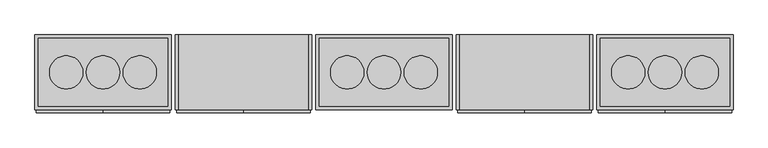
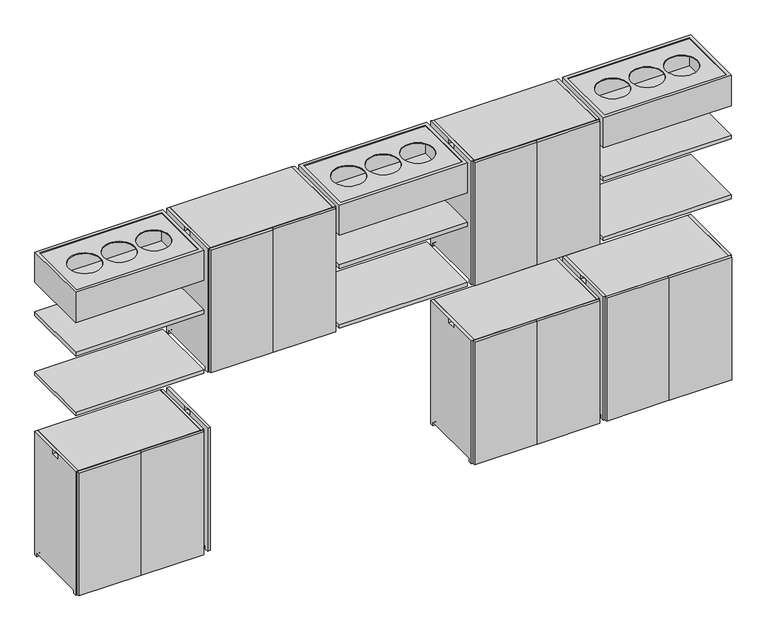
"""IFC4 building model written with IfcOpenShell, lengths in millimetres: furniture geometry, MAKR_TEMPLATE_800mmL1 : MAKR_TEMPLATE_800mmL 2."""

from ifc_helpers import new_model, si_unit, point, frame, frame_2d, origin, place, context, project, spatial, polyline, circle_curve, trimmed, segment, composite_curve, outline, extrude, source, transform, mapped, element, save
from ifc_brep_helpers import plane_surface, revolved_surface, advanced_brep


def furniture_e981aaca(model_context):
    return source(origin(), model_context, "Body", "SolidModel", [
        extrude(outline(polyline([(1250.0, 218.5217186), (2050.0, 218.5217186), (2050.0, -221.4782814), (1250.0, -221.4782814), (1250.0, 218.5217186)])), frame((0.0, 0.0, 1274.0), z_axis=(0.0, 0.0, 1.0), x_axis=(1.0, 0.0, 0.0)), (0.0, 0.0, 1.0), 25.0),
        extrude(outline(polyline([(-1250.0, 218.5217186), (-1250.0, -221.4782814), (-2050.0, -221.4782814), (-2050.0, 218.5217186), (-1250.0, 218.5217186)])), frame((0.0, 0.0, 1274.0), z_axis=(0.0, 0.0, 1.0), x_axis=(1.0, 0.0, 0.0)), (0.0, 0.0, 1.0), 25.0),
        extrude(outline(polyline([(400.0, 218.5217186), (400.0, -221.4782814), (-400.0, -221.4782814), (-400.0, 218.5217186), (400.0, 218.5217186)])), frame((0.0, 0.0, 1274.0), z_axis=(0.0, 0.0, 1.0), x_axis=(1.0, 0.0, 0.0)), (0.0, 0.0, 1.0), 25.0),
        extrude(outline(polyline([(1250.0, 218.5217186), (2050.0, 218.5217186), (2050.0, -221.4782814), (1250.0, -221.4782814), (1250.0, 218.5217186)])), frame((0.0, 0.0, 1669.0), z_axis=(0.0, 0.0, 1.0), x_axis=(1.0, 0.0, 0.0)), (0.0, 0.0, 1.0), 25.0),
        extrude(outline(polyline([(-1250.0, 218.5217186), (-1250.0, -221.4782814), (-2050.0, -221.4782814), (-2050.0, 218.5217186), (-1250.0, 218.5217186)])), frame((0.0, 0.0, 1669.0), z_axis=(0.0, 0.0, 1.0), x_axis=(1.0, 0.0, 0.0)), (0.0, 0.0, 1.0), 25.0),
        extrude(outline(polyline([(400.0, 218.5217186), (400.0, -221.4782814), (-400.0, -221.4782814), (-400.0, 218.5217186), (400.0, 218.5217186)])), frame((0.0, 0.0, 1669.0), z_axis=(0.0, 0.0, 1.0), x_axis=(1.0, 0.0, 0.0)), (0.0, 0.0, 1.0), 25.0),
        extrude(outline(polyline([(1250.0, 218.5217186), (2050.0, 218.5217186), (2050.0, -221.4782814), (1250.0, -221.4782814), (1250.0, 218.5217186)]), holes=[polyline([(2030.0, 198.5217186), (1270.0, 198.5217186), (1270.0, -201.4782814), (2030.0, -201.4782814), (2030.0, 198.5217186)])]), frame((0.0, 0.0, 1889.0), z_axis=(0.0, 0.0, 1.0), x_axis=(1.0, 0.0, 0.0)), (0.0, 0.0, 1.0), 200.0),
        extrude(outline(polyline([(1270.0, 198.5217186), (2030.0, 198.5217186), (2030.0, -201.4782814), (1270.0, -201.4782814), (1270.0, 198.5217186)])), frame((0.0, 0.0, 1889.0), z_axis=(0.0, 0.0, 1.0), x_axis=(1.0, 0.0, 0.0)), (0.0, 0.0, 1.0), 15.0),
        extrude(outline(polyline([(1270.0, 198.5217186), (2030.0, 198.5217186), (2030.0, -201.4782814), (1270.0, -201.4782814), (1270.0, 198.5217186)]), holes=[composite_curve([segment(trimmed(circle_curve(frame_2d((1650.0, -1.4782814)), 98.0), [point((1748.0, -1.4782814))], [point((1552.0, -1.4782814))], True, "CARTESIAN"), True, "CONTINUOUS"), segment(trimmed(circle_curve(frame_2d((1650.0, -1.4782814)), 98.0), [point((1552.0, -1.4782814))], [point((1748.0, -1.4782814))], True, "CARTESIAN"), True, "CONTINUOUS")], self_intersect=False), composite_curve([segment(trimmed(circle_curve(frame_2d((1434.0, -1.4782814)), 98.0), [point((1532.0, -1.4782814))], [point((1336.0, -1.4782814))], True, "CARTESIAN"), True, "CONTINUOUS"), segment(trimmed(circle_curve(frame_2d((1434.0, -1.4782814)), 98.0), [point((1336.0, -1.4782814))], [point((1532.0, -1.4782814))], True, "CARTESIAN"), True, "CONTINUOUS")], self_intersect=False), composite_curve([segment(trimmed(circle_curve(frame_2d((1866.0, -1.4782814)), 98.0), [point((1964.0, -1.4782814))], [point((1768.0, -1.4782814))], True, "CARTESIAN"), True, "CONTINUOUS"), segment(trimmed(circle_curve(frame_2d((1866.0, -1.4782814)), 98.0), [point((1768.0, -1.4782814))], [point((1964.0, -1.4782814))], True, "CARTESIAN"), True, "CONTINUOUS")], self_intersect=False)]), frame((0.0, 0.0, 2080.4363245), z_axis=(0.0, 0.0, 1.0), x_axis=(1.0, 0.0, 0.0)), (0.0, 0.0, 1.0), 3.5636755),
        extrude(outline(composite_curve([segment(polyline([(218.5217186, 2089.0), (218.5217186, 1274.0), (196.5217186, 1274.0), (196.5217186, 1291.0)]), True, "CONTINUOUS"), segment(trimmed(circle_curve(frame_2d((192.5217186, 1291.0)), 4.0), [point((196.5217186, 1291.0))], [point((192.5217186, 1295.0))], True, "CARTESIAN"), True, "CONTINUOUS"), segment(polyline([(192.5217186, 1295.0), (-195.4782814, 1295.0)]), True, "CONTINUOUS"), segment(trimmed(circle_curve(frame_2d((-195.4782814, 1291.0)), 4.0), [point((-195.4782814, 1295.0))], [point((-199.4782814, 1291.0))], True, "CARTESIAN"), True, "CONTINUOUS"), segment(polyline([(-199.4782814, 1291.0), (-199.4782814, 1274.0), (-221.4782814, 1274.0), (-221.4782814, 2089.0), (218.5217186, 2089.0)]), True, "CONTINUOUS")], self_intersect=False), holes=[polyline([(-27.4782814, 2059.0), (24.5217186, 2059.0), (24.5217186, 2084.0), (-27.4782814, 2084.0), (-27.4782814, 2059.0)])]), frame((1207.0, 0.0, 0.0), z_axis=(1.0, 0.0, 0.0), x_axis=(0.0, 1.0, 0.0)), (0.0, 0.0, 1.0), 18.0),
        advanced_brep(
        [(443.0, 218.5217186, 1292.0), (443.0, -221.4782814, 1292.0), (1207.0, -221.4782814, 1292.0), (1207.0, -199.3512647, 1292.0), (1201.1019215, -199.3512647, 1292.0), (1201.1019215, 196.394702, 1292.0), (1207.0, 196.394702, 1292.0), (1207.0, 218.5217186, 1292.0), (443.0, 218.5217186, 1274.0), (1207.0, 218.5217186, 1274.0), (1207.0, 196.5217186, 1274.0), (1201.1019215, 196.5217186, 1274.0), (1201.1019215, -199.4782814, 1274.0), (1207.0, -199.4782814, 1274.0), (1207.0, -221.4782814, 1274.0), (443.0, -221.4782814, 1274.0), (1207.0, 196.5217186, 1291.0), (1207.0, -199.4782814, 1291.0), (1201.1019215, 196.5217186, 1291.0), (1201.1019215, -199.4782814, 1291.0)],
        [
            (0, 1),
            (1, 2),
            (2, 3),
            (3, 4),
            (4, 5),
            (5, 6),
            (6, 7),
            (7, 0),
            (8, 9),
            (9, 10),
            (10, 11),
            (11, 12),
            (12, 13),
            (13, 14),
            (14, 15),
            (15, 8),
            (7, 9),
            (8, 0),
            (6, 16, circle_curve(frame((1207.0, 192.5217186, 1291.0), z_axis=(-1.0, 0.0, 0.0), x_axis=(0.0, 1.0, 0.0)), 4.0)),
            (16, 10),
            (13, 17),
            (17, 3, circle_curve(frame((1207.0, -195.4782814, 1291.0), z_axis=(-1.0, 0.0, 0.0), x_axis=(0.0, 1.0, 0.0)), 4.0)),
            (2, 14),
            (1, 15),
            (18, 5, circle_curve(frame((1201.1019215, 192.5217186, 1291.0), z_axis=(1.0, 0.0, 0.0), x_axis=(0.0, 1.0, 0.0)), 4.0)),
            (4, 19, circle_curve(frame((1201.1019215, -195.4782814, 1291.0), z_axis=(1.0, 0.0, 0.0), x_axis=(0.0, 1.0, 0.0)), 4.0)),
            (19, 12),
            (11, 18),
            (17, 19),
            (16, 18),
        ],
        [
            plane_surface(frame((1207.0, 218.5217186, 1292.0), z_axis=(0.0, 0.0, 1.0), x_axis=(1.0, 0.0, 0.0))),
            plane_surface(frame((1207.0, 218.5217186, 1274.0), z_axis=(0.0, 0.0, -1.0), x_axis=(-1.0, 0.0, 0.0))),
            plane_surface(frame((443.0, 218.5217186, 1292.0), z_axis=(0.0, 1.0, 0.0), x_axis=(0.0, 0.0, -1.0))),
            plane_surface(frame((1207.0, 218.5217186, 1292.0), z_axis=(1.0, 0.0, 0.0), x_axis=(0.0, 0.0, -1.0))),
            plane_surface(frame((1207.0, -221.4782814, 1292.0), z_axis=(0.0, -1.0, 0.0), x_axis=(0.0, 0.0, -1.0))),
            plane_surface(frame((443.0, -221.4782814, 1292.0), z_axis=(-1.0, 0.0, 0.0), x_axis=(0.0, 0.0, -1.0))),
            plane_surface(frame((1201.1019215, -191.4782814, 1291.0), z_axis=(1.0, 0.0, 0.0), x_axis=(0.0, 0.0, 1.0))),
            revolved_surface(polyline([(1201.1019215, -191.4782814, 1291.0), (1207.0, -191.4782814, 1291.0)]), (1231.0458228, -195.4782814, 1291.0), (-1.0, 0.0, 0.0)),
            plane_surface(frame((1201.1019215, -199.4782814, 1291.0), z_axis=(0.0, 1.0, 0.0), x_axis=(1.0, 0.0, 0.0))),
            plane_surface(frame((1201.1019215, 196.5217186, 1274.0), z_axis=(0.0, -1.0, 0.0), x_axis=(1.0, 0.0, 0.0))),
            revolved_surface(polyline([(1201.1019215, 196.5217186, 1291.0), (1207.0, 196.5217186, 1291.0)]), (1231.0458228, 192.5217186, 1291.0), (-1.0, 0.0, 0.0)),
        ],
        [
            (0, [[1, 2, 3, 4, 5, 6, 7, 8]]),
            (1, [[9, 10, 11, 12, 13, 14, 15, 16]]),
            (2, [[17, -9, 18, -8]]),
            (3, [[-7, 19, 20, -10, -17]]),
            (3, [[-14, 21, 22, -3, 23]]),
            (4, [[24, -15, -23, -2]]),
            (5, [[-18, -16, -24, -1]]),
            (6, [[25, -5, 26, 27, -12, 28]]),
            (7, [[-4, -22, 29, -26]]),
            (8, [[-29, -21, -13, -27]]),
            (9, [[-11, -20, 30, -28]]),
            (10, [[-30, -19, -6, -25]]),
        ],
    ),
        extrude(outline(composite_curve([segment(polyline([(218.5217186, 2089.0), (218.5217186, 1274.0), (196.5217186, 1274.0), (196.5217186, 1291.0)]), True, "CONTINUOUS"), segment(trimmed(circle_curve(frame_2d((192.5217186, 1291.0)), 4.0), [point((196.5217186, 1291.0))], [point((192.5217186, 1295.0))], True, "CARTESIAN"), True, "CONTINUOUS"), segment(polyline([(192.5217186, 1295.0), (-195.4782814, 1295.0)]), True, "CONTINUOUS"), segment(trimmed(circle_curve(frame_2d((-195.4782814, 1291.0)), 4.0), [point((-195.4782814, 1295.0))], [point((-199.4782814, 1291.0))], True, "CARTESIAN"), True, "CONTINUOUS"), segment(polyline([(-199.4782814, 1291.0), (-199.4782814, 1274.0), (-221.4782814, 1274.0), (-221.4782814, 2089.0), (218.5217186, 2089.0)]), True, "CONTINUOUS")], self_intersect=False), holes=[polyline([(-27.4782814, 2059.0), (24.5217186, 2059.0), (24.5217186, 2084.0), (-27.4782814, 2084.0), (-27.4782814, 2059.0)])]), frame((425.0, 0.0, 0.0), z_axis=(1.0, 0.0, 0.0), x_axis=(0.0, 1.0, 0.0)), (0.0, 0.0, 1.0), 18.0),
        extrude(outline(polyline([(443.0, 218.5217186), (1207.0, 218.5217186), (1207.0, 200.5217186), (443.0, 200.5217186), (443.0, 218.5217186)])), frame((0.0, 0.0, 1292.0), z_axis=(0.0, 0.0, 1.0), x_axis=(1.0, 0.0, 0.0)), (0.0, 0.0, 1.0), 779.0),
        extrude(outline(polyline([(443.0, 200.5217186), (1207.0, 200.5217186), (1207.0, -221.4782814), (443.0, -221.4782814), (443.0, 200.5217186)])), frame((0.0, 0.0, 1672.5), z_axis=(0.0, 0.0, 1.0), x_axis=(1.0, 0.0, 0.0)), (0.0, 0.0, 1.0), 18.0),
        extrude(outline(polyline([(443.0, 218.5217186), (1207.0, 218.5217186), (1207.0, -221.4782814), (443.0, -221.4782814), (443.0, 218.5217186)])), frame((0.0, 0.0, 2071.0), z_axis=(0.0, 0.0, 1.0), x_axis=(1.0, 0.0, 0.0)), (0.0, 0.0, 1.0), 18.0),
        extrude(outline(polyline([(816.0, 200.5217186), (834.0, 200.5217186), (834.0, -221.4782814), (816.0, -221.4782814), (816.0, 200.5217186)])), frame((0.0, 0.0, 1292.0), z_axis=(0.0, 0.0, 1.0), x_axis=(1.0, 0.0, 0.0)), (0.0, 0.0, 1.0), 779.0),
        extrude(outline(polyline([(434.0, -221.4782814), (824.0, -221.4782814), (824.0, -239.4782814), (434.0, -239.4782814), (434.0, -221.4782814)])), frame((0.0, 0.0, 1276.0), z_axis=(0.0, 0.0, 1.0), x_axis=(1.0, 0.0, 0.0)), (0.0, 0.0, 1.0), 811.0),
        extrude(outline(polyline([(1216.0, -221.4782814), (1216.0, -239.4782814), (826.0, -239.4782814), (826.0, -221.4782814), (1216.0, -221.4782814)])), frame((0.0, 0.0, 1276.0), z_axis=(0.0, 0.0, 1.0), x_axis=(1.0, 0.0, 0.0)), (0.0, 0.0, 1.0), 811.0),
        extrude(outline(polyline([(-1250.0, 218.5217186), (-1250.0, -221.4782814), (-2050.0, -221.4782814), (-2050.0, 218.5217186), (-1250.0, 218.5217186)]), holes=[polyline([(-2030.0, 198.5217186), (-2030.0, -201.4782814), (-1270.0, -201.4782814), (-1270.0, 198.5217186), (-2030.0, 198.5217186)])]), frame((0.0, 0.0, 1889.0), z_axis=(0.0, 0.0, 1.0), x_axis=(1.0, 0.0, 0.0)), (0.0, 0.0, 1.0), 200.0),
        extrude(outline(polyline([(-1270.0, 198.5217186), (-1270.0, -201.4782814), (-2030.0, -201.4782814), (-2030.0, 198.5217186), (-1270.0, 198.5217186)])), frame((0.0, 0.0, 1889.0), z_axis=(0.0, 0.0, 1.0), x_axis=(1.0, 0.0, 0.0)), (0.0, 0.0, 1.0), 15.0),
        extrude(outline(polyline([(-1270.0, 198.5217186), (-1270.0, -201.4782814), (-2030.0, -201.4782814), (-2030.0, 198.5217186), (-1270.0, 198.5217186)]), holes=[composite_curve([segment(trimmed(circle_curve(frame_2d((-1650.0, -1.4782814)), 98.0), [point((-1748.0, -1.4782814))], [point((-1552.0, -1.4782814))], True, "CARTESIAN"), True, "CONTINUOUS"), segment(trimmed(circle_curve(frame_2d((-1650.0, -1.4782814)), 98.0), [point((-1552.0, -1.4782814))], [point((-1748.0, -1.4782814))], True, "CARTESIAN"), True, "CONTINUOUS")], self_intersect=False), composite_curve([segment(trimmed(circle_curve(frame_2d((-1434.0, -1.4782814)), 98.0), [point((-1532.0, -1.4782814))], [point((-1336.0, -1.4782814))], True, "CARTESIAN"), True, "CONTINUOUS"), segment(trimmed(circle_curve(frame_2d((-1434.0, -1.4782814)), 98.0), [point((-1336.0, -1.4782814))], [point((-1532.0, -1.4782814))], True, "CARTESIAN"), True, "CONTINUOUS")], self_intersect=False), composite_curve([segment(trimmed(circle_curve(frame_2d((-1866.0, -1.4782814)), 98.0), [point((-1964.0, -1.4782814))], [point((-1768.0, -1.4782814))], True, "CARTESIAN"), True, "CONTINUOUS"), segment(trimmed(circle_curve(frame_2d((-1866.0, -1.4782814)), 98.0), [point((-1768.0, -1.4782814))], [point((-1964.0, -1.4782814))], True, "CARTESIAN"), True, "CONTINUOUS")], self_intersect=False)]), frame((0.0, 0.0, 2080.4363245), z_axis=(0.0, 0.0, 1.0), x_axis=(1.0, 0.0, 0.0)), (0.0, 0.0, 1.0), 3.5636755),
        extrude(outline(composite_curve([segment(polyline([(-221.4782814, 2089.0), (218.5217186, 2089.0), (218.5217186, 1274.0), (196.5217186, 1274.0), (196.5217186, 1291.0)]), True, "CONTINUOUS"), segment(trimmed(circle_curve(frame_2d((192.5217186, 1291.0)), 4.0), [point((196.5217186, 1291.0))], [point((192.5217186, 1295.0))], True, "CARTESIAN"), True, "CONTINUOUS"), segment(polyline([(192.5217186, 1295.0), (-195.4782814, 1295.0)]), True, "CONTINUOUS"), segment(trimmed(circle_curve(frame_2d((-195.4782814, 1291.0)), 4.0), [point((-195.4782814, 1295.0))], [point((-199.4782814, 1291.0))], True, "CARTESIAN"), True, "CONTINUOUS"), segment(polyline([(-199.4782814, 1291.0), (-199.4782814, 1274.0), (-221.4782814, 1274.0), (-221.4782814, 2089.0)]), True, "CONTINUOUS")], self_intersect=False), holes=[polyline([(-27.4782814, 2084.0), (-27.4782814, 2059.0), (24.5217186, 2059.0), (24.5217186, 2084.0), (-27.4782814, 2084.0)])]), frame((-1225.0, 0.0, 0.0), z_axis=(1.0, 0.0, 0.0), x_axis=(0.0, 1.0, 0.0)), (0.0, 0.0, 1.0), 18.0),
        advanced_brep(
        [(-443.0, 218.5217186, 1292.0), (-1207.0, 218.5217186, 1292.0), (-1207.0, 196.394702, 1292.0), (-1201.1019215, 196.394702, 1292.0), (-1201.1019215, -199.3512647, 1292.0), (-1207.0, -199.3512647, 1292.0), (-1207.0, -221.4782814, 1292.0), (-443.0, -221.4782814, 1292.0), (-443.0, 218.5217186, 1274.0), (-443.0, -221.4782814, 1274.0), (-1207.0, -221.4782814, 1274.0), (-1207.0, -199.4782814, 1274.0), (-1201.1019215, -199.4782814, 1274.0), (-1201.1019215, 196.5217186, 1274.0), (-1207.0, 196.5217186, 1274.0), (-1207.0, 218.5217186, 1274.0), (-1207.0, 196.5217186, 1291.0), (-1207.0, -199.4782814, 1291.0), (-1201.1019215, 196.5217186, 1291.0), (-1201.1019215, -199.4782814, 1291.0)],
        [
            (0, 1),
            (1, 2),
            (2, 3),
            (3, 4),
            (4, 5),
            (5, 6),
            (6, 7),
            (7, 0),
            (8, 9),
            (9, 10),
            (10, 11),
            (11, 12),
            (12, 13),
            (13, 14),
            (14, 15),
            (15, 8),
            (0, 8),
            (15, 1),
            (14, 16),
            (16, 2, circle_curve(frame((-1207.0, 192.5217186, 1291.0), z_axis=(1.0, 0.0, 0.0), x_axis=(0.0, 1.0, 0.0)), 4.0)),
            (10, 6),
            (5, 17, circle_curve(frame((-1207.0, -195.4782814, 1291.0), z_axis=(1.0, 0.0, 0.0), x_axis=(0.0, 1.0, 0.0)), 4.0)),
            (17, 11),
            (9, 7),
            (18, 13),
            (12, 19),
            (19, 4, circle_curve(frame((-1201.1019215, -195.4782814, 1291.0), z_axis=(-1.0, 0.0, 0.0), x_axis=(0.0, 1.0, 0.0)), 4.0)),
            (3, 18, circle_curve(frame((-1201.1019215, 192.5217186, 1291.0), z_axis=(-1.0, 0.0, 0.0), x_axis=(0.0, 1.0, 0.0)), 4.0)),
            (19, 17),
            (18, 16),
        ],
        [
            plane_surface(frame((-1207.0, 218.5217186, 1292.0), z_axis=(0.0, 0.0, 1.0), x_axis=(-1.0, 0.0, 0.0))),
            plane_surface(frame((-1207.0, 218.5217186, 1274.0), z_axis=(0.0, 0.0, -1.0), x_axis=(1.0, 0.0, 0.0))),
            plane_surface(frame((-443.0, 218.5217186, 1292.0), z_axis=(0.0, 1.0, 0.0), x_axis=(0.0, 0.0, -1.0))),
            plane_surface(frame((-1207.0, 218.5217186, 1292.0), z_axis=(-1.0, 0.0, 0.0), x_axis=(0.0, 0.0, -1.0))),
            plane_surface(frame((-1207.0, -221.4782814, 1292.0), z_axis=(0.0, -1.0, 0.0), x_axis=(0.0, 0.0, -1.0))),
            plane_surface(frame((-443.0, -221.4782814, 1292.0), z_axis=(1.0, 0.0, 0.0), x_axis=(0.0, 0.0, -1.0))),
            plane_surface(frame((-1201.1019215, -191.4782814, 1291.0), z_axis=(-1.0, 0.0, 0.0), x_axis=(0.0, 0.0, 1.0))),
            revolved_surface(polyline([(-1201.1019215, -191.4782814, 1291.0), (-1207.0, -191.4782814, 1291.0)]), (-1231.0458228, -195.4782814, 1291.0), (1.0, 0.0, 0.0)),
            plane_surface(frame((-1201.1019215, -199.4782814, 1291.0), z_axis=(0.0, 1.0, 0.0), x_axis=(-1.0, 0.0, 0.0))),
            plane_surface(frame((-1201.1019215, 196.5217186, 1274.0), z_axis=(0.0, -1.0, 0.0), x_axis=(-1.0, 0.0, 0.0))),
            revolved_surface(polyline([(-1201.1019215, 196.5217186, 1291.0), (-1207.0, 196.5217186, 1291.0)]), (-1231.0458228, 192.5217186, 1291.0), (1.0, 0.0, 0.0)),
        ],
        [
            (0, [[1, 2, 3, 4, 5, 6, 7, 8]]),
            (1, [[9, 10, 11, 12, 13, 14, 15, 16]]),
            (2, [[-1, 17, -16, 18]]),
            (3, [[-18, -15, 19, 20, -2]]),
            (3, [[21, -6, 22, 23, -11]]),
            (4, [[-7, -21, -10, 24]]),
            (5, [[-8, -24, -9, -17]]),
            (6, [[25, -13, 26, 27, -4, 28]]),
            (7, [[-27, 29, -22, -5]]),
            (8, [[-26, -12, -23, -29]]),
            (9, [[-25, 30, -19, -14]]),
            (10, [[-28, -3, -20, -30]]),
        ],
    ),
        extrude(outline(composite_curve([segment(polyline([(-221.4782814, 2089.0), (218.5217186, 2089.0), (218.5217186, 1274.0), (196.5217186, 1274.0), (196.5217186, 1291.0)]), True, "CONTINUOUS"), segment(trimmed(circle_curve(frame_2d((192.5217186, 1291.0)), 4.0), [point((196.5217186, 1291.0))], [point((192.5217186, 1295.0))], True, "CARTESIAN"), True, "CONTINUOUS"), segment(polyline([(192.5217186, 1295.0), (-195.4782814, 1295.0)]), True, "CONTINUOUS"), segment(trimmed(circle_curve(frame_2d((-195.4782814, 1291.0)), 4.0), [point((-195.4782814, 1295.0))], [point((-199.4782814, 1291.0))], True, "CARTESIAN"), True, "CONTINUOUS"), segment(polyline([(-199.4782814, 1291.0), (-199.4782814, 1274.0), (-221.4782814, 1274.0), (-221.4782814, 2089.0)]), True, "CONTINUOUS")], self_intersect=False), holes=[polyline([(-27.4782814, 2084.0), (-27.4782814, 2059.0), (24.5217186, 2059.0), (24.5217186, 2084.0), (-27.4782814, 2084.0)])]), frame((-443.0, 0.0, 0.0), z_axis=(1.0, 0.0, 0.0), x_axis=(0.0, 1.0, 0.0)), (0.0, 0.0, 1.0), 18.0),
        extrude(outline(polyline([(-443.0, 218.5217186), (-443.0, 200.5217186), (-1207.0, 200.5217186), (-1207.0, 218.5217186), (-443.0, 218.5217186)])), frame((0.0, 0.0, 1292.0), z_axis=(0.0, 0.0, 1.0), x_axis=(1.0, 0.0, 0.0)), (0.0, 0.0, 1.0), 779.0),
        extrude(outline(polyline([(-443.0, 200.5217186), (-443.0, -221.4782814), (-1207.0, -221.4782814), (-1207.0, 200.5217186), (-443.0, 200.5217186)])), frame((0.0, 0.0, 1672.5), z_axis=(0.0, 0.0, 1.0), x_axis=(1.0, 0.0, 0.0)), (0.0, 0.0, 1.0), 18.0),
        extrude(outline(polyline([(-443.0, 218.5217186), (-443.0, -221.4782814), (-1207.0, -221.4782814), (-1207.0, 218.5217186), (-443.0, 218.5217186)])), frame((0.0, 0.0, 2071.0), z_axis=(0.0, 0.0, 1.0), x_axis=(1.0, 0.0, 0.0)), (0.0, 0.0, 1.0), 18.0),
        extrude(outline(polyline([(-816.0, 200.5217186), (-816.0, -221.4782814), (-834.0, -221.4782814), (-834.0, 200.5217186), (-816.0, 200.5217186)])), frame((0.0, 0.0, 1292.0), z_axis=(0.0, 0.0, 1.0), x_axis=(1.0, 0.0, 0.0)), (0.0, 0.0, 1.0), 779.0),
        extrude(outline(polyline([(-434.0, -221.4782814), (-434.0, -239.4782814), (-824.0, -239.4782814), (-824.0, -221.4782814), (-434.0, -221.4782814)])), frame((0.0, 0.0, 1276.0), z_axis=(0.0, 0.0, 1.0), x_axis=(1.0, 0.0, 0.0)), (0.0, 0.0, 1.0), 811.0),
        extrude(outline(polyline([(-1216.0, -221.4782814), (-826.0, -221.4782814), (-826.0, -239.4782814), (-1216.0, -239.4782814), (-1216.0, -221.4782814)])), frame((0.0, 0.0, 1276.0), z_axis=(0.0, 0.0, 1.0), x_axis=(1.0, 0.0, 0.0)), (0.0, 0.0, 1.0), 811.0),
        extrude(outline(polyline([(400.0, 218.5217186), (400.0, -221.4782814), (-400.0, -221.4782814), (-400.0, 218.5217186), (400.0, 218.5217186)]), holes=[polyline([(-380.0, 198.5217186), (-380.0, -201.4782814), (380.0, -201.4782814), (380.0, 198.5217186), (-380.0, 198.5217186)])]), frame((0.0, 0.0, 1889.0), z_axis=(0.0, 0.0, 1.0), x_axis=(1.0, 0.0, 0.0)), (0.0, 0.0, 1.0), 200.0),
        extrude(outline(polyline([(380.0, 198.5217186), (380.0, -201.4782814), (-380.0, -201.4782814), (-380.0, 198.5217186), (380.0, 198.5217186)])), frame((0.0, 0.0, 1889.0), z_axis=(0.0, 0.0, 1.0), x_axis=(1.0, 0.0, 0.0)), (0.0, 0.0, 1.0), 15.0),
        extrude(outline(polyline([(380.0, 198.5217186), (380.0, -201.4782814), (-380.0, -201.4782814), (-380.0, 198.5217186), (380.0, 198.5217186)]), holes=[composite_curve([segment(trimmed(circle_curve(frame_2d((0.0, -1.4782814)), 98.0), [point((-98.0, -1.4782814))], [point((98.0, -1.4782814))], True, "CARTESIAN"), True, "CONTINUOUS"), segment(trimmed(circle_curve(frame_2d((0.0, -1.4782814)), 98.0), [point((98.0, -1.4782814))], [point((-98.0, -1.4782814))], True, "CARTESIAN"), True, "CONTINUOUS")], self_intersect=False), composite_curve([segment(trimmed(circle_curve(frame_2d((216.0, -1.4782814)), 98.0), [point((118.0, -1.4782814))], [point((314.0, -1.4782814))], True, "CARTESIAN"), True, "CONTINUOUS"), segment(trimmed(circle_curve(frame_2d((216.0, -1.4782814)), 98.0), [point((314.0, -1.4782814))], [point((118.0, -1.4782814))], True, "CARTESIAN"), True, "CONTINUOUS")], self_intersect=False), composite_curve([segment(trimmed(circle_curve(frame_2d((-216.0, -1.4782814)), 98.0), [point((-314.0, -1.4782814))], [point((-118.0, -1.4782814))], True, "CARTESIAN"), True, "CONTINUOUS"), segment(trimmed(circle_curve(frame_2d((-216.0, -1.4782814)), 98.0), [point((-118.0, -1.4782814))], [point((-314.0, -1.4782814))], True, "CARTESIAN"), True, "CONTINUOUS")], self_intersect=False)]), frame((0.0, 0.0, 2080.4363245), z_axis=(0.0, 0.0, 1.0), x_axis=(1.0, 0.0, 0.0)), (0.0, 0.0, 1.0), 3.5636755),
        extrude(outline(composite_curve([segment(polyline([(218.5217186, 904.0), (218.5217186, 89.0), (196.5217186, 89.0), (196.5217186, 106.0)]), True, "CONTINUOUS"), segment(trimmed(circle_curve(frame_2d((192.5217186, 106.0)), 4.0), [point((196.5217186, 106.0))], [point((192.5217186, 110.0))], True, "CARTESIAN"), True, "CONTINUOUS"), segment(polyline([(192.5217186, 110.0), (-195.4782814, 110.0)]), True, "CONTINUOUS"), segment(trimmed(circle_curve(frame_2d((-195.4782814, 106.0)), 4.0), [point((-195.4782814, 110.0))], [point((-199.4782814, 106.0))], True, "CARTESIAN"), True, "CONTINUOUS"), segment(polyline([(-199.4782814, 106.0), (-199.4782814, 89.0), (-221.4782814, 89.0), (-221.4782814, 904.0), (218.5217186, 904.0)]), True, "CONTINUOUS")], self_intersect=False), holes=[polyline([(-27.4782814, 874.0), (24.5217186, 874.0), (24.5217186, 899.0), (-27.4782814, 899.0), (-27.4782814, 874.0)])]), frame((2032.0, 0.0, 0.0), z_axis=(1.0, 0.0, 0.0), x_axis=(0.0, 1.0, 0.0)), (0.0, 0.0, 1.0), 18.0),
        advanced_brep(
        [(1268.0, 218.5217186, 107.0), (1268.0, -221.4782814, 107.0), (2032.0, -221.4782814, 107.0), (2032.0, -199.3512647, 107.0), (2026.1019215, -199.3512647, 107.0), (2026.1019215, 196.394702, 107.0), (2032.0, 196.394702, 107.0), (2032.0, 218.5217186, 107.0), (1268.0, 218.5217186, 89.0), (2032.0, 218.5217186, 89.0), (2032.0, 196.5217186, 89.0), (2026.1019215, 196.5217186, 89.0), (2026.1019215, -199.4782814, 89.0), (2032.0, -199.4782814, 89.0), (2032.0, -221.4782814, 89.0), (1268.0, -221.4782814, 89.0), (2032.0, 196.5217186, 106.0), (2032.0, -199.4782814, 106.0), (2026.1019215, 196.5217186, 106.0), (2026.1019215, -199.4782814, 106.0)],
        [
            (0, 1),
            (1, 2),
            (2, 3),
            (3, 4),
            (4, 5),
            (5, 6),
            (6, 7),
            (7, 0),
            (8, 9),
            (9, 10),
            (10, 11),
            (11, 12),
            (12, 13),
            (13, 14),
            (14, 15),
            (15, 8),
            (7, 9),
            (8, 0),
            (6, 16, circle_curve(frame((2032.0, 192.5217186, 106.0), z_axis=(-1.0, 0.0, 0.0), x_axis=(0.0, 1.0, 0.0)), 4.0)),
            (16, 10),
            (13, 17),
            (17, 3, circle_curve(frame((2032.0, -195.4782814, 106.0), z_axis=(-1.0, 0.0, 0.0), x_axis=(0.0, 1.0, 0.0)), 4.0)),
            (2, 14),
            (1, 15),
            (18, 5, circle_curve(frame((2026.1019215, 192.5217186, 106.0), z_axis=(1.0, 0.0, 0.0), x_axis=(0.0, 1.0, 0.0)), 4.0)),
            (4, 19, circle_curve(frame((2026.1019215, -195.4782814, 106.0), z_axis=(1.0, 0.0, 0.0), x_axis=(0.0, 1.0, 0.0)), 4.0)),
            (19, 12),
            (11, 18),
            (17, 19),
            (16, 18),
        ],
        [
            plane_surface(frame((2032.0, 218.5217186, 107.0), z_axis=(0.0, 0.0, 1.0), x_axis=(1.0, 0.0, 0.0))),
            plane_surface(frame((2032.0, 218.5217186, 89.0), z_axis=(0.0, 0.0, -1.0), x_axis=(-1.0, 0.0, 0.0))),
            plane_surface(frame((1268.0, 218.5217186, 107.0), z_axis=(0.0, 1.0, 0.0), x_axis=(0.0, 0.0, -1.0))),
            plane_surface(frame((2032.0, 218.5217186, 107.0), z_axis=(1.0, 0.0, 0.0), x_axis=(0.0, 0.0, -1.0))),
            plane_surface(frame((2032.0, -221.4782814, 107.0), z_axis=(0.0, -1.0, 0.0), x_axis=(0.0, 0.0, -1.0))),
            plane_surface(frame((1268.0, -221.4782814, 107.0), z_axis=(-1.0, 0.0, 0.0), x_axis=(0.0, 0.0, -1.0))),
            plane_surface(frame((2026.1019215, -191.4782814, 106.0), z_axis=(1.0, 0.0, 0.0), x_axis=(0.0, 0.0, 1.0))),
            revolved_surface(polyline([(2026.1019215, -191.4782814, 106.0), (2032.0, -191.4782814, 106.0)]), (2056.0458228, -195.4782814, 106.0), (-1.0, 0.0, 0.0)),
            plane_surface(frame((2026.1019215, -199.4782814, 106.0), z_axis=(0.0, 1.0, 0.0), x_axis=(1.0, 0.0, 0.0))),
            plane_surface(frame((2026.1019215, 196.5217186, 89.0), z_axis=(0.0, -1.0, 0.0), x_axis=(1.0, 0.0, 0.0))),
            revolved_surface(polyline([(2026.1019215, 196.5217186, 106.0), (2032.0, 196.5217186, 106.0)]), (2056.0458228, 192.5217186, 106.0), (-1.0, 0.0, 0.0)),
        ],
        [
            (0, [[1, 2, 3, 4, 5, 6, 7, 8]]),
            (1, [[9, 10, 11, 12, 13, 14, 15, 16]]),
            (2, [[17, -9, 18, -8]]),
            (3, [[-7, 19, 20, -10, -17]]),
            (3, [[-14, 21, 22, -3, 23]]),
            (4, [[24, -15, -23, -2]]),
            (5, [[-18, -16, -24, -1]]),
            (6, [[25, -5, 26, 27, -12, 28]]),
            (7, [[-4, -22, 29, -26]]),
            (8, [[-29, -21, -13, -27]]),
            (9, [[-11, -20, 30, -28]]),
            (10, [[-30, -19, -6, -25]]),
        ],
    ),
        extrude(outline(composite_curve([segment(polyline([(218.5217186, 904.0), (218.5217186, 89.0), (196.5217186, 89.0), (196.5217186, 106.0)]), True, "CONTINUOUS"), segment(trimmed(circle_curve(frame_2d((192.5217186, 106.0)), 4.0), [point((196.5217186, 106.0))], [point((192.5217186, 110.0))], True, "CARTESIAN"), True, "CONTINUOUS"), segment(polyline([(192.5217186, 110.0), (-195.4782814, 110.0)]), True, "CONTINUOUS"), segment(trimmed(circle_curve(frame_2d((-195.4782814, 106.0)), 4.0), [point((-195.4782814, 110.0))], [point((-199.4782814, 106.0))], True, "CARTESIAN"), True, "CONTINUOUS"), segment(polyline([(-199.4782814, 106.0), (-199.4782814, 89.0), (-221.4782814, 89.0), (-221.4782814, 904.0), (218.5217186, 904.0)]), True, "CONTINUOUS")], self_intersect=False), holes=[polyline([(-27.4782814, 874.0), (24.5217186, 874.0), (24.5217186, 899.0), (-27.4782814, 899.0), (-27.4782814, 874.0)])]), frame((1250.0, 0.0, 0.0), z_axis=(1.0, 0.0, 0.0), x_axis=(0.0, 1.0, 0.0)), (0.0, 0.0, 1.0), 18.0),
        extrude(outline(polyline([(1268.0, 218.5217186), (2032.0, 218.5217186), (2032.0, 200.5217186), (1268.0, 200.5217186), (1268.0, 218.5217186)])), frame((0.0, 0.0, 107.0), z_axis=(0.0, 0.0, 1.0), x_axis=(1.0, 0.0, 0.0)), (0.0, 0.0, 1.0), 779.0),
        extrude(outline(polyline([(1268.0, 200.5217186), (2032.0, 200.5217186), (2032.0, -221.4782814), (1268.0, -221.4782814), (1268.0, 200.5217186)])), frame((0.0, 0.0, 487.5), z_axis=(0.0, 0.0, 1.0), x_axis=(1.0, 0.0, 0.0)), (0.0, 0.0, 1.0), 18.0),
        extrude(outline(polyline([(1268.0, 218.5217186), (2032.0, 218.5217186), (2032.0, -221.4782814), (1268.0, -221.4782814), (1268.0, 218.5217186)])), frame((0.0, 0.0, 886.0), z_axis=(0.0, 0.0, 1.0), x_axis=(1.0, 0.0, 0.0)), (0.0, 0.0, 1.0), 18.0),
        extrude(outline(polyline([(1641.0, 200.5217186), (1659.0, 200.5217186), (1659.0, -221.4782814), (1641.0, -221.4782814), (1641.0, 200.5217186)])), frame((0.0, 0.0, 107.0), z_axis=(0.0, 0.0, 1.0), x_axis=(1.0, 0.0, 0.0)), (0.0, 0.0, 1.0), 779.0),
        extrude(outline(polyline([(1259.0, -221.4782814), (1649.0, -221.4782814), (1649.0, -239.4782814), (1259.0, -239.4782814), (1259.0, -221.4782814)])), frame((0.0, 0.0, 91.0), z_axis=(0.0, 0.0, 1.0), x_axis=(1.0, 0.0, 0.0)), (0.0, 0.0, 1.0), 811.0),
        extrude(outline(polyline([(2041.0, -221.4782814), (2041.0, -239.4782814), (1651.0, -239.4782814), (1651.0, -221.4782814), (2041.0, -221.4782814)])), frame((0.0, 0.0, 91.0), z_axis=(0.0, 0.0, 1.0), x_axis=(1.0, 0.0, 0.0)), (0.0, 0.0, 1.0), 811.0),
        extrude(outline(composite_curve([segment(polyline([(218.5217186, 904.0), (218.5217186, 89.0), (196.5217186, 89.0), (196.5217186, 106.0)]), True, "CONTINUOUS"), segment(trimmed(circle_curve(frame_2d((192.5217186, 106.0)), 4.0), [point((196.5217186, 106.0))], [point((192.5217186, 110.0))], True, "CARTESIAN"), True, "CONTINUOUS"), segment(polyline([(192.5217186, 110.0), (-195.4782814, 110.0)]), True, "CONTINUOUS"), segment(trimmed(circle_curve(frame_2d((-195.4782814, 106.0)), 4.0), [point((-195.4782814, 110.0))], [point((-199.4782814, 106.0))], True, "CARTESIAN"), True, "CONTINUOUS"), segment(polyline([(-199.4782814, 106.0), (-199.4782814, 89.0), (-221.4782814, 89.0), (-221.4782814, 904.0), (218.5217186, 904.0)]), True, "CONTINUOUS")], self_intersect=False), holes=[polyline([(-27.4782814, 874.0), (24.5217186, 874.0), (24.5217186, 899.0), (-27.4782814, 899.0), (-27.4782814, 874.0)])]), frame((1207.0, 0.0, 0.0), z_axis=(1.0, 0.0, 0.0), x_axis=(0.0, 1.0, 0.0)), (0.0, 0.0, 1.0), 18.0),
        advanced_brep(
        [(443.0, 218.5217186, 107.0), (443.0, -221.4782814, 107.0), (1207.0, -221.4782814, 107.0), (1207.0, -199.3512647, 107.0), (1201.1019215, -199.3512647, 107.0), (1201.1019215, 196.394702, 107.0), (1207.0, 196.394702, 107.0), (1207.0, 218.5217186, 107.0), (443.0, 218.5217186, 89.0), (1207.0, 218.5217186, 89.0), (1207.0, 196.5217186, 89.0), (1201.1019215, 196.5217186, 89.0), (1201.1019215, -199.4782814, 89.0), (1207.0, -199.4782814, 89.0), (1207.0, -221.4782814, 89.0), (443.0, -221.4782814, 89.0), (1207.0, 196.5217186, 106.0), (1207.0, -199.4782814, 106.0), (1201.1019215, 196.5217186, 106.0), (1201.1019215, -199.4782814, 106.0)],
        [
            (0, 1),
            (1, 2),
            (2, 3),
            (3, 4),
            (4, 5),
            (5, 6),
            (6, 7),
            (7, 0),
            (8, 9),
            (9, 10),
            (10, 11),
            (11, 12),
            (12, 13),
            (13, 14),
            (14, 15),
            (15, 8),
            (7, 9),
            (8, 0),
            (6, 16, circle_curve(frame((1207.0, 192.5217186, 106.0), z_axis=(-1.0, 0.0, 0.0), x_axis=(0.0, 1.0, 0.0)), 4.0)),
            (16, 10),
            (13, 17),
            (17, 3, circle_curve(frame((1207.0, -195.4782814, 106.0), z_axis=(-1.0, 0.0, 0.0), x_axis=(0.0, 1.0, 0.0)), 4.0)),
            (2, 14),
            (1, 15),
            (18, 5, circle_curve(frame((1201.1019215, 192.5217186, 106.0), z_axis=(1.0, 0.0, 0.0), x_axis=(0.0, 1.0, 0.0)), 4.0)),
            (4, 19, circle_curve(frame((1201.1019215, -195.4782814, 106.0), z_axis=(1.0, 0.0, 0.0), x_axis=(0.0, 1.0, 0.0)), 4.0)),
            (19, 12),
            (11, 18),
            (17, 19),
            (16, 18),
        ],
        [
            plane_surface(frame((1207.0, 218.5217186, 107.0), z_axis=(0.0, 0.0, 1.0), x_axis=(1.0, 0.0, 0.0))),
            plane_surface(frame((1207.0, 218.5217186, 89.0), z_axis=(0.0, 0.0, -1.0), x_axis=(-1.0, 0.0, 0.0))),
            plane_surface(frame((443.0, 218.5217186, 107.0), z_axis=(0.0, 1.0, 0.0), x_axis=(0.0, 0.0, -1.0))),
            plane_surface(frame((1207.0, 218.5217186, 107.0), z_axis=(1.0, 0.0, 0.0), x_axis=(0.0, 0.0, -1.0))),
            plane_surface(frame((1207.0, -221.4782814, 107.0), z_axis=(0.0, -1.0, 0.0), x_axis=(0.0, 0.0, -1.0))),
            plane_surface(frame((443.0, -221.4782814, 107.0), z_axis=(-1.0, 0.0, 0.0), x_axis=(0.0, 0.0, -1.0))),
            plane_surface(frame((1201.1019215, -191.4782814, 106.0), z_axis=(1.0, 0.0, 0.0), x_axis=(0.0, 0.0, 1.0))),
            revolved_surface(polyline([(1201.1019215, -191.4782814, 106.0), (1207.0, -191.4782814, 106.0)]), (1231.0458228, -195.4782814, 106.0), (-1.0, 0.0, 0.0)),
            plane_surface(frame((1201.1019215, -199.4782814, 106.0), z_axis=(0.0, 1.0, 0.0), x_axis=(1.0, 0.0, 0.0))),
            plane_surface(frame((1201.1019215, 196.5217186, 89.0), z_axis=(0.0, -1.0, 0.0), x_axis=(1.0, 0.0, 0.0))),
            revolved_surface(polyline([(1201.1019215, 196.5217186, 106.0), (1207.0, 196.5217186, 106.0)]), (1231.0458228, 192.5217186, 106.0), (-1.0, 0.0, 0.0)),
        ],
        [
            (0, [[1, 2, 3, 4, 5, 6, 7, 8]]),
            (1, [[9, 10, 11, 12, 13, 14, 15, 16]]),
            (2, [[17, -9, 18, -8]]),
            (3, [[-7, 19, 20, -10, -17]]),
            (3, [[-14, 21, 22, -3, 23]]),
            (4, [[24, -15, -23, -2]]),
            (5, [[-18, -16, -24, -1]]),
            (6, [[25, -5, 26, 27, -12, 28]]),
            (7, [[-4, -22, 29, -26]]),
            (8, [[-29, -21, -13, -27]]),
            (9, [[-11, -20, 30, -28]]),
            (10, [[-30, -19, -6, -25]]),
        ],
    ),
        extrude(outline(composite_curve([segment(polyline([(218.5217186, 904.0), (218.5217186, 89.0), (196.5217186, 89.0), (196.5217186, 106.0)]), True, "CONTINUOUS"), segment(trimmed(circle_curve(frame_2d((192.5217186, 106.0)), 4.0), [point((196.5217186, 106.0))], [point((192.5217186, 110.0))], True, "CARTESIAN"), True, "CONTINUOUS"), segment(polyline([(192.5217186, 110.0), (-195.4782814, 110.0)]), True, "CONTINUOUS"), segment(trimmed(circle_curve(frame_2d((-195.4782814, 106.0)), 4.0), [point((-195.4782814, 110.0))], [point((-199.4782814, 106.0))], True, "CARTESIAN"), True, "CONTINUOUS"), segment(polyline([(-199.4782814, 106.0), (-199.4782814, 89.0), (-221.4782814, 89.0), (-221.4782814, 904.0), (218.5217186, 904.0)]), True, "CONTINUOUS")], self_intersect=False), holes=[polyline([(-27.4782814, 874.0), (24.5217186, 874.0), (24.5217186, 899.0), (-27.4782814, 899.0), (-27.4782814, 874.0)])]), frame((425.0, 0.0, 0.0), z_axis=(1.0, 0.0, 0.0), x_axis=(0.0, 1.0, 0.0)), (0.0, 0.0, 1.0), 18.0),
        extrude(outline(polyline([(443.0, 218.5217186), (1207.0, 218.5217186), (1207.0, 200.5217186), (443.0, 200.5217186), (443.0, 218.5217186)])), frame((0.0, 0.0, 107.0), z_axis=(0.0, 0.0, 1.0), x_axis=(1.0, 0.0, 0.0)), (0.0, 0.0, 1.0), 779.0),
        extrude(outline(polyline([(443.0, 200.5217186), (1207.0, 200.5217186), (1207.0, -221.4782814), (443.0, -221.4782814), (443.0, 200.5217186)])), frame((0.0, 0.0, 487.5), z_axis=(0.0, 0.0, 1.0), x_axis=(1.0, 0.0, 0.0)), (0.0, 0.0, 1.0), 18.0),
        extrude(outline(polyline([(443.0, 218.5217186), (1207.0, 218.5217186), (1207.0, -221.4782814), (443.0, -221.4782814), (443.0, 218.5217186)])), frame((0.0, 0.0, 886.0), z_axis=(0.0, 0.0, 1.0), x_axis=(1.0, 0.0, 0.0)), (0.0, 0.0, 1.0), 18.0),
        extrude(outline(polyline([(816.0, 200.5217186), (834.0, 200.5217186), (834.0, -221.4782814), (816.0, -221.4782814), (816.0, 200.5217186)])), frame((0.0, 0.0, 107.0), z_axis=(0.0, 0.0, 1.0), x_axis=(1.0, 0.0, 0.0)), (0.0, 0.0, 1.0), 779.0),
        extrude(outline(polyline([(434.0, -221.4782814), (824.0, -221.4782814), (824.0, -239.4782814), (434.0, -239.4782814), (434.0, -221.4782814)])), frame((0.0, 0.0, 91.0), z_axis=(0.0, 0.0, 1.0), x_axis=(1.0, 0.0, 0.0)), (0.0, 0.0, 1.0), 811.0),
        extrude(outline(polyline([(1216.0, -221.4782814), (1216.0, -239.4782814), (826.0, -239.4782814), (826.0, -221.4782814), (1216.0, -221.4782814)])), frame((0.0, 0.0, 91.0), z_axis=(0.0, 0.0, 1.0), x_axis=(1.0, 0.0, 0.0)), (0.0, 0.0, 1.0), 811.0),
        extrude(outline(composite_curve([segment(polyline([(-221.4782814, 904.0), (218.5217186, 904.0), (218.5217186, 89.0), (196.5217186, 89.0), (196.5217186, 106.0)]), True, "CONTINUOUS"), segment(trimmed(circle_curve(frame_2d((192.5217186, 106.0)), 4.0), [point((196.5217186, 106.0))], [point((192.5217186, 110.0))], True, "CARTESIAN"), True, "CONTINUOUS"), segment(polyline([(192.5217186, 110.0), (-195.4782814, 110.0)]), True, "CONTINUOUS"), segment(trimmed(circle_curve(frame_2d((-195.4782814, 106.0)), 4.0), [point((-195.4782814, 110.0))], [point((-199.4782814, 106.0))], True, "CARTESIAN"), True, "CONTINUOUS"), segment(polyline([(-199.4782814, 106.0), (-199.4782814, 89.0), (-221.4782814, 89.0), (-221.4782814, 904.0)]), True, "CONTINUOUS")], self_intersect=False), holes=[polyline([(-27.4782814, 899.0), (-27.4782814, 874.0), (24.5217186, 874.0), (24.5217186, 899.0), (-27.4782814, 899.0)])]), frame((-2050.0, 0.0, 0.0), z_axis=(1.0, 0.0, 0.0), x_axis=(0.0, 1.0, 0.0)), (0.0, 0.0, 1.0), 18.0),
        advanced_brep(
        [(-1268.0, 218.5217186, 107.0), (-2032.0, 218.5217186, 107.0), (-2032.0, 196.394702, 107.0), (-2026.1019215, 196.394702, 107.0), (-2026.1019215, -199.3512647, 107.0), (-2032.0, -199.3512647, 107.0), (-2032.0, -221.4782814, 107.0), (-1268.0, -221.4782814, 107.0), (-1268.0, 218.5217186, 89.0), (-1268.0, -221.4782814, 89.0), (-2032.0, -221.4782814, 89.0), (-2032.0, -199.4782814, 89.0), (-2026.1019215, -199.4782814, 89.0), (-2026.1019215, 196.5217186, 89.0), (-2032.0, 196.5217186, 89.0), (-2032.0, 218.5217186, 89.0), (-2032.0, 196.5217186, 106.0), (-2032.0, -199.4782814, 106.0), (-2026.1019215, 196.5217186, 106.0), (-2026.1019215, -199.4782814, 106.0)],
        [
            (0, 1),
            (1, 2),
            (2, 3),
            (3, 4),
            (4, 5),
            (5, 6),
            (6, 7),
            (7, 0),
            (8, 9),
            (9, 10),
            (10, 11),
            (11, 12),
            (12, 13),
            (13, 14),
            (14, 15),
            (15, 8),
            (0, 8),
            (15, 1),
            (14, 16),
            (16, 2, circle_curve(frame((-2032.0, 192.5217186, 106.0), z_axis=(1.0, 0.0, 0.0), x_axis=(0.0, 1.0, 0.0)), 4.0)),
            (10, 6),
            (5, 17, circle_curve(frame((-2032.0, -195.4782814, 106.0), z_axis=(1.0, 0.0, 0.0), x_axis=(0.0, 1.0, 0.0)), 4.0)),
            (17, 11),
            (9, 7),
            (18, 13),
            (12, 19),
            (19, 4, circle_curve(frame((-2026.1019215, -195.4782814, 106.0), z_axis=(-1.0, 0.0, 0.0), x_axis=(0.0, 1.0, 0.0)), 4.0)),
            (3, 18, circle_curve(frame((-2026.1019215, 192.5217186, 106.0), z_axis=(-1.0, 0.0, 0.0), x_axis=(0.0, 1.0, 0.0)), 4.0)),
            (19, 17),
            (18, 16),
        ],
        [
            plane_surface(frame((-2032.0, 218.5217186, 107.0), z_axis=(0.0, 0.0, 1.0), x_axis=(-1.0, 0.0, 0.0))),
            plane_surface(frame((-2032.0, 218.5217186, 89.0), z_axis=(0.0, 0.0, -1.0), x_axis=(1.0, 0.0, 0.0))),
            plane_surface(frame((-1268.0, 218.5217186, 107.0), z_axis=(0.0, 1.0, 0.0), x_axis=(0.0, 0.0, -1.0))),
            plane_surface(frame((-2032.0, 218.5217186, 107.0), z_axis=(-1.0, 0.0, 0.0), x_axis=(0.0, 0.0, -1.0))),
            plane_surface(frame((-2032.0, -221.4782814, 107.0), z_axis=(0.0, -1.0, 0.0), x_axis=(0.0, 0.0, -1.0))),
            plane_surface(frame((-1268.0, -221.4782814, 107.0), z_axis=(1.0, 0.0, 0.0), x_axis=(0.0, 0.0, -1.0))),
            plane_surface(frame((-2026.1019215, -191.4782814, 106.0), z_axis=(-1.0, 0.0, 0.0), x_axis=(0.0, 0.0, 1.0))),
            revolved_surface(polyline([(-2026.1019215, -191.4782814, 106.0), (-2032.0, -191.4782814, 106.0)]), (-2056.0458228, -195.4782814, 106.0), (1.0, 0.0, 0.0)),
            plane_surface(frame((-2026.1019215, -199.4782814, 106.0), z_axis=(0.0, 1.0, 0.0), x_axis=(-1.0, 0.0, 0.0))),
            plane_surface(frame((-2026.1019215, 196.5217186, 89.0), z_axis=(0.0, -1.0, 0.0), x_axis=(-1.0, 0.0, 0.0))),
            revolved_surface(polyline([(-2026.1019215, 196.5217186, 106.0), (-2032.0, 196.5217186, 106.0)]), (-2056.0458228, 192.5217186, 106.0), (1.0, 0.0, 0.0)),
        ],
        [
            (0, [[1, 2, 3, 4, 5, 6, 7, 8]]),
            (1, [[9, 10, 11, 12, 13, 14, 15, 16]]),
            (2, [[-1, 17, -16, 18]]),
            (3, [[-18, -15, 19, 20, -2]]),
            (3, [[21, -6, 22, 23, -11]]),
            (4, [[-7, -21, -10, 24]]),
            (5, [[-8, -24, -9, -17]]),
            (6, [[25, -13, 26, 27, -4, 28]]),
            (7, [[-27, 29, -22, -5]]),
            (8, [[-26, -12, -23, -29]]),
            (9, [[-25, 30, -19, -14]]),
            (10, [[-28, -3, -20, -30]]),
        ],
    ),
        extrude(outline(composite_curve([segment(polyline([(-221.4782814, 904.0), (218.5217186, 904.0), (218.5217186, 89.0), (196.5217186, 89.0), (196.5217186, 106.0)]), True, "CONTINUOUS"), segment(trimmed(circle_curve(frame_2d((192.5217186, 106.0)), 4.0), [point((196.5217186, 106.0))], [point((192.5217186, 110.0))], True, "CARTESIAN"), True, "CONTINUOUS"), segment(polyline([(192.5217186, 110.0), (-195.4782814, 110.0)]), True, "CONTINUOUS"), segment(trimmed(circle_curve(frame_2d((-195.4782814, 106.0)), 4.0), [point((-195.4782814, 110.0))], [point((-199.4782814, 106.0))], True, "CARTESIAN"), True, "CONTINUOUS"), segment(polyline([(-199.4782814, 106.0), (-199.4782814, 89.0), (-221.4782814, 89.0), (-221.4782814, 904.0)]), True, "CONTINUOUS")], self_intersect=False), holes=[polyline([(-27.4782814, 899.0), (-27.4782814, 874.0), (24.5217186, 874.0), (24.5217186, 899.0), (-27.4782814, 899.0)])]), frame((-1268.0, 0.0, 0.0), z_axis=(1.0, 0.0, 0.0), x_axis=(0.0, 1.0, 0.0)), (0.0, 0.0, 1.0), 18.0),
        extrude(outline(polyline([(-1268.0, 218.5217186), (-1268.0, 200.5217186), (-2032.0, 200.5217186), (-2032.0, 218.5217186), (-1268.0, 218.5217186)])), frame((0.0, 0.0, 107.0), z_axis=(0.0, 0.0, 1.0), x_axis=(1.0, 0.0, 0.0)), (0.0, 0.0, 1.0), 779.0),
        extrude(outline(polyline([(-1268.0, 200.5217186), (-1268.0, -221.4782814), (-2032.0, -221.4782814), (-2032.0, 200.5217186), (-1268.0, 200.5217186)])), frame((0.0, 0.0, 487.5), z_axis=(0.0, 0.0, 1.0), x_axis=(1.0, 0.0, 0.0)), (0.0, 0.0, 1.0), 18.0),
        extrude(outline(polyline([(-1268.0, 218.5217186), (-1268.0, -221.4782814), (-2032.0, -221.4782814), (-2032.0, 218.5217186), (-1268.0, 218.5217186)])), frame((0.0, 0.0, 886.0), z_axis=(0.0, 0.0, 1.0), x_axis=(1.0, 0.0, 0.0)), (0.0, 0.0, 1.0), 18.0),
        extrude(outline(polyline([(-1641.0, 200.5217186), (-1641.0, -221.4782814), (-1659.0, -221.4782814), (-1659.0, 200.5217186), (-1641.0, 200.5217186)])), frame((0.0, 0.0, 107.0), z_axis=(0.0, 0.0, 1.0), x_axis=(1.0, 0.0, 0.0)), (0.0, 0.0, 1.0), 779.0),
        extrude(outline(polyline([(-1259.0, -221.4782814), (-1259.0, -239.4782814), (-1649.0, -239.4782814), (-1649.0, -221.4782814), (-1259.0, -221.4782814)])), frame((0.0, 0.0, 91.0), z_axis=(0.0, 0.0, 1.0), x_axis=(1.0, 0.0, 0.0)), (0.0, 0.0, 1.0), 811.0),
        extrude(outline(polyline([(-2041.0, -221.4782814), (-1651.0, -221.4782814), (-1651.0, -239.4782814), (-2041.0, -239.4782814), (-2041.0, -221.4782814)])), frame((0.0, 0.0, 91.0), z_axis=(0.0, 0.0, 1.0), x_axis=(1.0, 0.0, 0.0)), (0.0, 0.0, 1.0), 811.0),
        extrude(outline(composite_curve([segment(polyline([(-221.4782814, 904.0), (218.5217186, 904.0), (218.5217186, 89.0), (196.5217186, 89.0), (196.5217186, 106.0)]), True, "CONTINUOUS"), segment(trimmed(circle_curve(frame_2d((192.5217186, 106.0)), 4.0), [point((196.5217186, 106.0))], [point((192.5217186, 110.0))], True, "CARTESIAN"), True, "CONTINUOUS"), segment(polyline([(192.5217186, 110.0), (-195.4782814, 110.0)]), True, "CONTINUOUS"), segment(trimmed(circle_curve(frame_2d((-195.4782814, 106.0)), 4.0), [point((-195.4782814, 110.0))], [point((-199.4782814, 106.0))], True, "CARTESIAN"), True, "CONTINUOUS"), segment(polyline([(-199.4782814, 106.0), (-199.4782814, 89.0), (-221.4782814, 89.0), (-221.4782814, 904.0)]), True, "CONTINUOUS")], self_intersect=False), holes=[polyline([(-27.4782814, 899.0), (-27.4782814, 874.0), (24.5217186, 874.0), (24.5217186, 899.0), (-27.4782814, 899.0)])]), frame((-1225.0, 0.0, 0.0), z_axis=(1.0, 0.0, 0.0), x_axis=(0.0, 1.0, 0.0)), (0.0, 0.0, 1.0), 18.0),
    ])


if __name__ == "__main__":
    model = new_model("IFC4")
    model_context = context("Model", 3, world=origin())
    ifc_project = project(units=[si_unit("LENGTHUNIT", "METRE", prefix="MILLI")], contexts=[model_context])
    site = spatial("IfcSite", under=ifc_project)
    building = spatial("IfcBuilding", under=site)
    placement = place(None, origin())
    furniture_shape = furniture_e981aaca(model_context)
    element("IfcFurniture", 1, ObjectType="MAKR_TEMPLATE_800mmL1 : MAKR_TEMPLATE_800mmL 2", at=placement, inside=building, context=model_context, shape_type="MappedRepresentation", body=[
        mapped(furniture_shape, transform((0.0, 0.0, 0.0), x_axis=(1.0, 0.0, 0.0), y_axis=(0.0, 1.0, 0.0), z_axis=(0.0, 0.0, 1.0))),
    ])
    save(model, "model.ifc")
